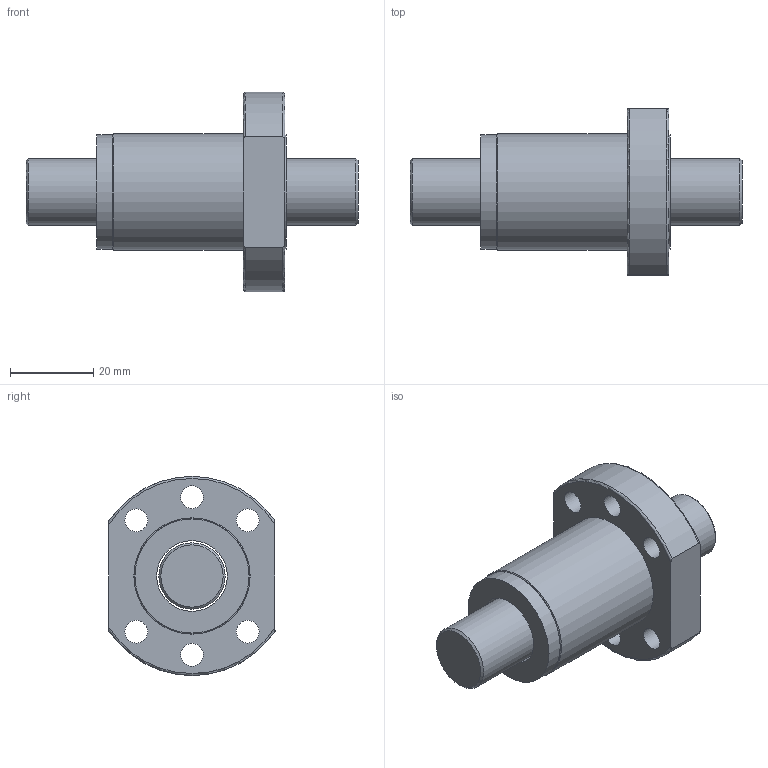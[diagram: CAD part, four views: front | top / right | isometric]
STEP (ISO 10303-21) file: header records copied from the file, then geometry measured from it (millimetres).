
FILE_DESCRIPTION(/* description */ (''),/* implementation_level */ '2;1');
FILE_NAME(/* name */ 'SFS1616-1.8',/* time_stamp */ '2007-10-26T10:33:18+08:00',/* author */ (''),/* organization */ (''),/* preprocessor_version */ 'ST-DEVELOPER v9',/* originating_system */ 'UGS - NX 3.0',/* authorisation */ '');
FILE_SCHEMA (('CONFIG_CONTROL_DESIGN'));
Length unit declared in the file: millimetre
Products named in the file (1): jaso37B0hu6a
Bounding box: 80 x 40 x 48 mm (x, y, z)
Volume: 42772.4 mm3; surface area: 17082.6 mm2
Topology: 4 solids, 4 shells, 35 faces, 78 edges, 53 vertices
Faces by surface type: cylinder 16, plane 12, torus 5, cone 2
Full cylindrical faces by diameter (mm): 5.5 x6, 16 x1, 17 x3, 27.5 x3, 28 x1
Entity records: 1106 total; most frequent: CARTESIAN_POINT 288, DIRECTION 158, ORIENTED_EDGE 110, AXIS2_PLACEMENT_3D 75, EDGE_LOOP 72, EDGE_CURVE 55, FACE_BOUND 52, VERTEX_POINT 47
